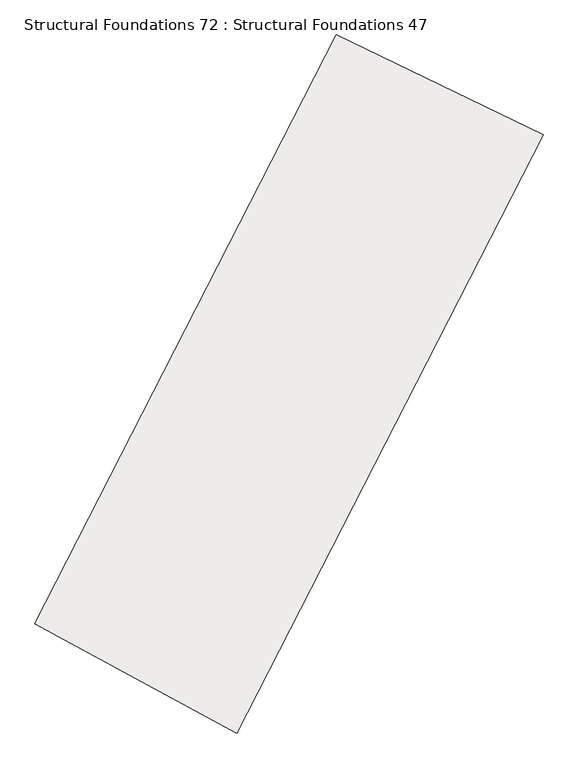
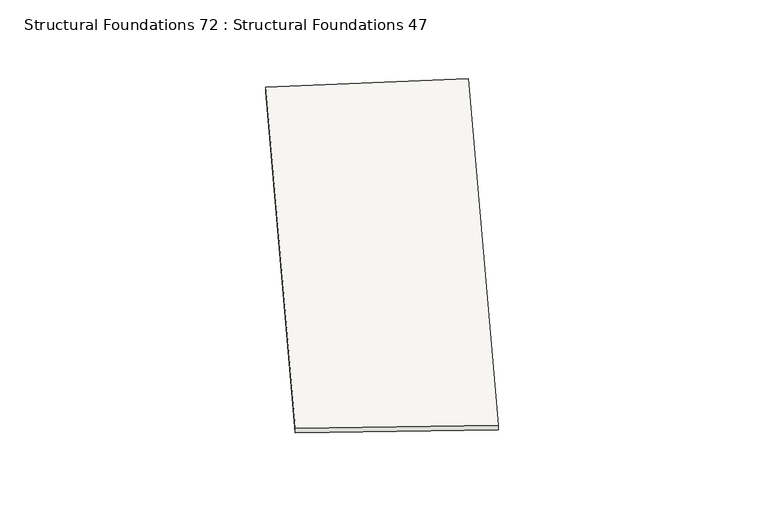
"""IFC4 building model written with IfcOpenShell, lengths in millimetres: slab geometry, Structural Foundations 72 : Structural Foundations 47."""

from ifc_helpers import new_model, si_unit, frame, origin, place, context, project, spatial, source, transform, mapped, element, save
from ifc_brep_helpers import plane_surface, spline_curve, spline_surface, advanced_brep


def structural_foundations_72_structural_foundations_47_13474a30(model_context):
    return source(origin(), model_context, "Body", "AdvancedBrep", [
        advanced_brep(
        [(411448.0832577, 344243.158027, 645841.9417666), (411448.0832577, 344243.158027, 645741.9417666), (414702.2950993, 342482.4464407, 645741.9417666), (414702.2950993, 342482.4464407, 645841.9417666), (416311.1240069, 353741.0059589, 645981.9417666), (419642.789192, 352131.656061, 645981.9417666), (419642.789192, 352131.656061, 645881.9417666), (416311.1240069, 353741.0059589, 645881.9417666)],
        [
            (0, 1),
            (1, 2),
            (2, 3),
            (3, 0),
            (4, 5),
            (5, 6),
            (6, 7),
            (7, 4),
            (4, 0, spline_curve(3, [(416311.1240069, 353741.0059589, 645981.9417666), (414763.136497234, 350538.34737017, 645935.275100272), (413141.551735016, 347371.283835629, 645888.608432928), (411448.0832577, 344243.158027, 645841.9417666)], [4, 4], [0.0, 35.292665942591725])),
            (3, 5, spline_curve(3, [(414702.2950993, 342482.4464407, 645841.9417666), (416422.736180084, 345660.424004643, 645888.608432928), (418070.147811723, 348877.959196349, 645935.275100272), (419642.789192, 352131.656061, 645981.9417666)], [4, 4], [0.0, 35.292665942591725])),
            (7, 1, spline_curve(3, [(416311.1240069, 353741.0059589, 645881.9417666), (414763.136497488, 350538.347369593, 645835.275100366), (413141.551735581, 347371.283835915, 645788.608432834), (411448.0832577, 344243.158027, 645741.9417666)], [4, 4], [0.0, 35.01375132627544])),
            (6, 2, spline_curve(3, [(419642.789192, 352131.656061, 645881.9417666), (418070.147811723, 348877.959196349, 645835.275100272), (416422.736180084, 345660.424004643, 645788.608432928), (414702.2950993, 342482.4464407, 645741.9417666)], [4, 4], [0.0, 35.292665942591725])),
        ],
        [
            plane_surface(frame((413075.1891785, 343362.8022338, 645791.9417666), z_axis=(-0.4758679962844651, -0.8795167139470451, 0.0), x_axis=(0.0, 0.0, -1.0))),
            plane_surface(frame((417976.9565995, 352936.3310099, 645931.9417666), z_axis=(0.4349594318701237, 0.9004500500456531, 0.0), x_axis=(0.0, 0.0, -1.0))),
            spline_surface(3, 3, [[(419642.789192, 352131.656061, 645981.9417666), (418070.1478115, 348877.959196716, 645935.275099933), (416422.736180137, 345660.424004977, 645888.608433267), (414702.2950993, 342482.4464407, 645841.9417666)], [(418532.234130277, 352668.106026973, 645981.9417666), (416967.810706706, 349431.421921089, 645935.275099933), (415329.008031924, 346230.710615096, 645888.608433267), (413617.557818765, 343069.350302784, 645841.9417666)], [(417421.679068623, 353204.555992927, 645981.9417666), (415865.473601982, 349984.884645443, 645935.275099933), (414235.279883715, 346800.997225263, 645888.608433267), (412532.820538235, 343656.254164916, 645841.9417666)], [(416311.1240069, 353741.0059589, 645981.9417666), (414763.136497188, 350538.347369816, 645935.275099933), (413141.551735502, 347371.283835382, 645888.608433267), (411448.0832577, 344243.158027, 645841.9417666)]], [4, 4], [4, 4], [0.0, 12.13910747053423], [0.0, 35.292665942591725]),
            spline_surface(3, 3, [[(416311.1240069, 353741.0059589, 645981.9417666), (414763.136497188, 350538.347369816, 645935.275099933), (413141.551735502, 347371.283835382, 645888.608433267), (411448.0832577, 344243.158027, 645841.9417666)], [(416311.1240069, 353741.0059589, 645948.608433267), (414763.136497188, 350538.347369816, 645901.9417666), (413141.551735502, 347371.283835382, 645855.275099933), (411448.0832577, 344243.158027, 645808.608433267)], [(416311.1240069, 353741.0059589, 645915.275099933), (414763.136497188, 350538.347369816, 645868.608433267), (413141.551735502, 347371.283835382, 645821.9417666), (411448.0832577, 344243.158027, 645775.275099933)], [(416311.1240069, 353741.0059589, 645881.9417666), (414763.136497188, 350538.347369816, 645835.275099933), (413141.551735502, 347371.283835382, 645788.608433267), (411448.0832577, 344243.158027, 645741.9417666)]], [4, 4], [4, 4], [0.0, 0.3280839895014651], [0.0, 35.01375132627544]),
            spline_surface(3, 3, [[(416311.1240069, 353741.0059589, 645881.9417666), (414763.136497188, 350538.347369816, 645835.275099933), (413141.551735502, 347371.283835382, 645788.608433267), (411448.0832577, 344243.158027, 645741.9417666)], [(417421.679068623, 353204.555992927, 645881.9417666), (415865.473601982, 349984.884645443, 645835.275099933), (414235.279883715, 346800.997225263, 645788.608433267), (412532.820538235, 343656.254164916, 645741.9417666)], [(418532.234130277, 352668.106026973, 645881.9417666), (416967.810706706, 349431.421921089, 645835.275099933), (415329.008031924, 346230.710615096, 645788.608433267), (413617.557818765, 343069.350302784, 645741.9417666)], [(419642.789192, 352131.656061, 645881.9417666), (418070.1478115, 348877.959196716, 645835.275099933), (416422.736180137, 345660.424004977, 645788.608433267), (414702.2950993, 342482.4464407, 645741.9417666)]], [4, 4], [4, 4], [0.0, 12.139107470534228], [0.0, 35.292665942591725]),
            spline_surface(3, 3, [[(419642.789192, 352131.656061, 645881.9417666), (418070.1478115, 348877.959196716, 645835.275099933), (416422.736180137, 345660.424004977, 645788.608433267), (414702.2950993, 342482.4464407, 645741.9417666)], [(419642.789192, 352131.656061, 645915.275099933), (418070.1478115, 348877.959196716, 645868.608433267), (416422.736180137, 345660.424004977, 645821.9417666), (414702.2950993, 342482.4464407, 645775.275099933)], [(419642.789192, 352131.656061, 645948.608433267), (418070.1478115, 348877.959196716, 645901.9417666), (416422.736180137, 345660.424004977, 645855.275099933), (414702.2950993, 342482.4464407, 645808.608433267)], [(419642.789192, 352131.656061, 645981.9417666), (418070.1478115, 348877.959196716, 645935.275099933), (416422.736180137, 345660.424004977, 645888.608433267), (414702.2950993, 342482.4464407, 645841.9417666)]], [4, 4], [4, 4], [0.0, 0.3280839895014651], [0.0, 35.571580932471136]),
        ],
        [
            (0, [[1, 2, 3, 4]]),
            (1, [[5, 6, 7, 8]]),
            (2, [[-5, 9, -4, 10]]),
            (3, [[-8, 11, -1, -9]]),
            (4, [[-7, 12, -2, -11]]),
            (5, [[-6, -10, -3, -12]]),
        ],
    ),
    ])


if __name__ == "__main__":
    model = new_model("IFC4")
    model_context = context("Model", 3, world=origin())
    ifc_project = project(units=[si_unit("LENGTHUNIT", "METRE", prefix="MILLI")], contexts=[model_context])
    site = spatial("IfcSite", under=ifc_project)
    building = spatial("IfcBuilding", under=site)
    placement = place(None, origin())
    structural_foundations_72_structural_foundations_47_shape = structural_foundations_72_structural_foundations_47_13474a30(model_context)
    element("IfcSlab", 1, ObjectType="Structural Foundations 72 : Structural Foundations 47", at=placement, inside=building, context=model_context, shape_type="MappedRepresentation", body=[
        mapped(structural_foundations_72_structural_foundations_47_shape, transform((0.0, 0.0, 0.0), x_axis=(1.0, 0.0, 0.0), y_axis=(0.0, 1.0, 0.0), z_axis=(0.0, 0.0, 1.0))),
    ])
    save(model, "model.ifc")
